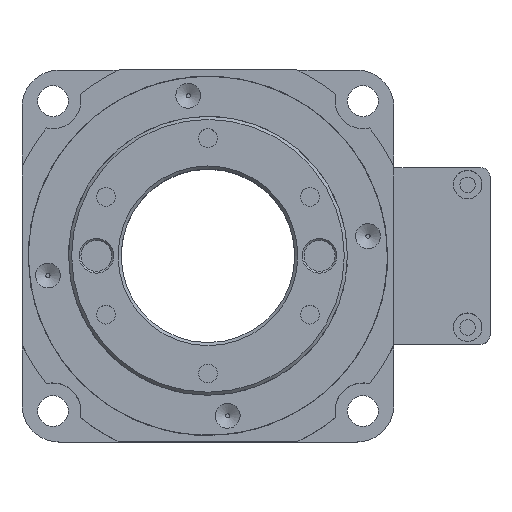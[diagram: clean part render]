
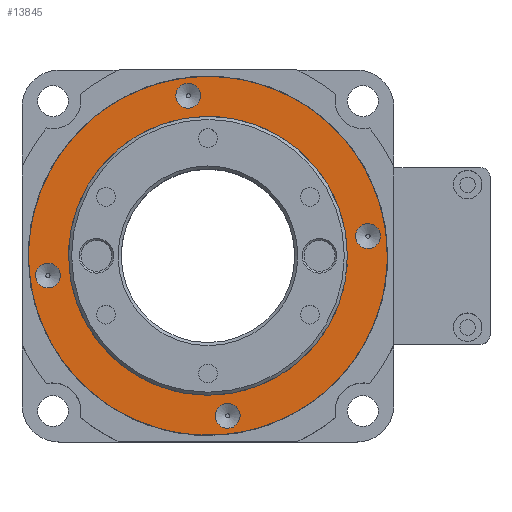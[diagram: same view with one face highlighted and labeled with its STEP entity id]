
A CAD part, top view. The second image highlights one B-rep face of the part: STEP entity #13845.
In plain terms, the highlighted planar face has unit normal (0, 0, 1).
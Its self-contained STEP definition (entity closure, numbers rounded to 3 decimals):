
#175 = EDGE_LOOP ( 'NONE', ( #8017 ) ) ;
#221 = VERTEX_POINT ( 'NONE', #13874 ) ;
#224 = CARTESIAN_POINT ( 'NONE',  ( -25.815, -3.184, 29. ) ) ;
#686 = EDGE_CURVE ( 'NONE', #14697, #14697, #5549, .T. ) ;
#762 = CARTESIAN_POINT ( 'NONE',  ( 0., 0., 29. ) ) ;
#794 = FACE_BOUND ( 'NONE', #10311, .T. ) ;
#805 = EDGE_CURVE ( 'NONE', #11599, #11599, #3199, .T. ) ;
#917 = CARTESIAN_POINT ( 'NONE',  ( 0., 0., 29. ) ) ;
#948 = VERTEX_POINT ( 'NONE', #14593 ) ;
#1112 = DIRECTION ( 'NONE',  ( 0.076, 0.997, 0. ) ) ;
#1582 = FACE_BOUND ( 'NONE', #175, .T. ) ;
#1974 = AXIS2_PLACEMENT_3D ( 'NONE', #14292, #12717, #11159 ) ;
#2617 = ORIENTED_EDGE ( 'NONE', *, *, #11072, .T. ) ;
#2653 = DIRECTION ( 'NONE',  ( 0., 0., 1. ) ) ;
#2742 = EDGE_LOOP ( 'NONE', ( #2617 ) ) ;
#3153 = FACE_OUTER_BOUND ( 'NONE', #5405, .T. ) ;
#3199 = CIRCLE ( 'NONE', #12618, 2. ) ;
#3249 = CARTESIAN_POINT ( 'NONE',  ( -1.704, -22.435, 29. ) ) ;
#3951 = FACE_BOUND ( 'NONE', #2742, .T. ) ;
#3980 = CARTESIAN_POINT ( 'NONE',  ( -27.81, -3.033, 29. ) ) ;
#4207 = CARTESIAN_POINT ( 'NONE',  ( -3.184, 25.815, 29. ) ) ;
#4790 = CIRCLE ( 'NONE', #10237, 2. ) ;
#4820 = VERTEX_POINT ( 'NONE', #3249 ) ;
#5333 = ORIENTED_EDGE ( 'NONE', *, *, #805, .F. ) ;
#5405 = EDGE_LOOP ( 'NONE', ( #7949 ) ) ;
#5539 = VERTEX_POINT ( 'NONE', #3980 ) ;
#5549 = CIRCLE ( 'NONE', #10951, 29. ) ;
#5826 = ORIENTED_EDGE ( 'NONE', *, *, #8975, .F. ) ;
#5914 = CIRCLE ( 'NONE', #9777, 2. ) ;
#6817 = DIRECTION ( 'NONE',  ( -0.076, -0.997, 0. ) ) ;
#6895 = PLANE ( 'NONE',  #1974 ) ;
#7949 = ORIENTED_EDGE ( 'NONE', *, *, #686, .F. ) ;
#8017 = ORIENTED_EDGE ( 'NONE', *, *, #12458, .F. ) ;
#8391 = DIRECTION ( 'NONE',  ( 0., 0., -1. ) ) ;
#8742 = AXIS2_PLACEMENT_3D ( 'NONE', #224, #13879, #12283 ) ;
#8975 = EDGE_CURVE ( 'NONE', #5539, #5539, #12798, .T. ) ;
#9086 = DIRECTION ( 'NONE',  ( -0.076, -0.997, 0. ) ) ;
#9777 = AXIS2_PLACEMENT_3D ( 'NONE', #12155, #10638, #9086 ) ;
#9958 = ORIENTED_EDGE ( 'NONE', *, *, #14778, .F. ) ;
#10025 = CARTESIAN_POINT ( 'NONE',  ( -3.033, 27.81, 29. ) ) ;
#10108 = EDGE_LOOP ( 'NONE', ( #9958 ) ) ;
#10237 = AXIS2_PLACEMENT_3D ( 'NONE', #14455, #12894, #11331 ) ;
#10311 = EDGE_LOOP ( 'NONE', ( #5333 ) ) ;
#10638 = DIRECTION ( 'NONE',  ( 0., 0., 1. ) ) ;
#10951 = AXIS2_PLACEMENT_3D ( 'NONE', #917, #8391, #6817 ) ;
#11072 = EDGE_CURVE ( 'NONE', #4820, #4820, #11690, .T. ) ;
#11159 = DIRECTION ( 'NONE',  ( -0.076, -0.997, 0. ) ) ;
#11331 = DIRECTION ( 'NONE',  ( 0.997, -0.076, 0. ) ) ;
#11445 = EDGE_LOOP ( 'NONE', ( #5826 ) ) ;
#11599 = VERTEX_POINT ( 'NONE', #10025 ) ;
#11690 = CIRCLE ( 'NONE', #12779, 22.5 ) ;
#12155 = CARTESIAN_POINT ( 'NONE',  ( 3.184, -25.815, 29. ) ) ;
#12283 = DIRECTION ( 'NONE',  ( -0.997, 0.076, 0. ) ) ;
#12446 = FACE_BOUND ( 'NONE', #11445, .T. ) ;
#12458 = EDGE_CURVE ( 'NONE', #948, #948, #5914, .T. ) ;
#12618 = AXIS2_PLACEMENT_3D ( 'NONE', #4207, #2653, #1112 ) ;
#12717 = DIRECTION ( 'NONE',  ( 0., 0., -1. ) ) ;
#12779 = AXIS2_PLACEMENT_3D ( 'NONE', #762, #14431, #12871 ) ;
#12798 = CIRCLE ( 'NONE', #8742, 2. ) ;
#12871 = DIRECTION ( 'NONE',  ( -0.076, -0.997, 0. ) ) ;
#12894 = DIRECTION ( 'NONE',  ( 0., 0., 1. ) ) ;
#13125 = CARTESIAN_POINT ( 'NONE',  ( -2.196, -28.917, 29. ) ) ;
#13845 = ADVANCED_FACE ( 'NONE', ( #12446, #1582, #14829, #794, #3153, #3951 ), #6895, .F. ) ;
#13874 = CARTESIAN_POINT ( 'NONE',  ( 27.81, 3.033, 29. ) ) ;
#13879 = DIRECTION ( 'NONE',  ( 0., 0., 1. ) ) ;
#14292 = CARTESIAN_POINT ( 'NONE',  ( 0., 0., 29. ) ) ;
#14431 = DIRECTION ( 'NONE',  ( 0., 0., -1. ) ) ;
#14455 = CARTESIAN_POINT ( 'NONE',  ( 25.815, 3.184, 29. ) ) ;
#14593 = CARTESIAN_POINT ( 'NONE',  ( 3.033, -27.81, 29. ) ) ;
#14697 = VERTEX_POINT ( 'NONE', #13125 ) ;
#14778 = EDGE_CURVE ( 'NONE', #221, #221, #4790, .T. ) ;
#14829 = FACE_BOUND ( 'NONE', #10108, .T. ) ;
